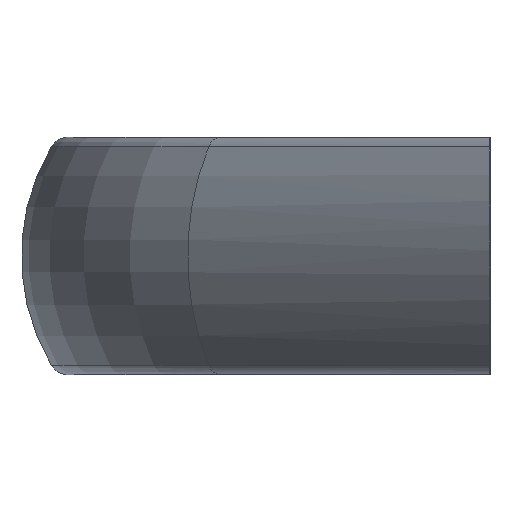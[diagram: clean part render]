
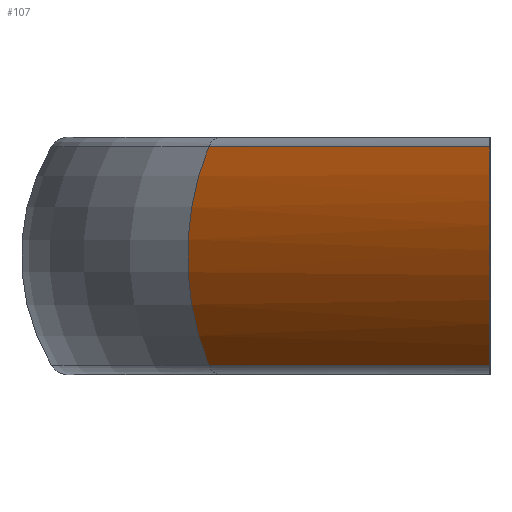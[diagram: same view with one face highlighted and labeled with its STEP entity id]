
A CAD part, left-side view. The second image highlights one B-rep face of the part: STEP entity #107.
In plain terms, the highlighted cylindrical face has radius 32.5 mm (diameter 65 mm), a partial arc.
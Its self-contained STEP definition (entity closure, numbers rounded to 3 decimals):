
#107 = ADVANCED_FACE( '', ( #181 ), #182, .T. );
#181 = FACE_OUTER_BOUND( '', #263, .T. );
#182 = CYLINDRICAL_SURFACE( '', #264, 32.5 );
#263 = EDGE_LOOP( '', ( #512, #513, #514, #515 ) );
#264 = AXIS2_PLACEMENT_3D( '', #516, #517, #518 );
#512 = ORIENTED_EDGE( '', *, *, #644, .F. );
#513 = ORIENTED_EDGE( '', *, *, #643, .T. );
#514 = ORIENTED_EDGE( '', *, *, #623, .F. );
#515 = ORIENTED_EDGE( '', *, *, #645, .F. );
#516 = CARTESIAN_POINT( '', ( -500.012, -118.591, 0. ) );
#517 = DIRECTION( '', ( -0.707, -0.707, 0. ) );
#518 = DIRECTION( '', ( -0.707, 0.707, 0. ) );
#623 = EDGE_CURVE( '', #748, #751, #752, .T. );
#643 = EDGE_CURVE( '', #777, #751, #779, .T. );
#644 = EDGE_CURVE( '', #777, #780, #781, .T. );
#645 = EDGE_CURVE( '', #780, #748, #782, .T. );
#748 = VERTEX_POINT( '', #904 );
#751 = VERTEX_POINT( '', #907 );
#752 = CIRCLE( '', #908, 32.5 );
#777 = VERTEX_POINT( '', #939 );
#779 = LINE( '', #941, #942 );
#780 = VERTEX_POINT( '', #943 );
#781 = ELLIPSE( '', #944, 45.962, 32.5 );
#782 = LINE( '', #945, #946 );
#904 = CARTESIAN_POINT( '', ( -378.379, 42.619, -16.525 ) );
#907 = CARTESIAN_POINT( '', ( -378.379, 42.619, 16.525 ) );
#908 = AXIS2_PLACEMENT_3D( '', #1088, #1089, #1090 );
#939 = CARTESIAN_POINT( '', ( -420.997, 0., 16.525 ) );
#941 = CARTESIAN_POINT( '', ( -519.8, -98.803, 16.525 ) );
#942 = VECTOR( '', #1136, 1000. );
#943 = CARTESIAN_POINT( '', ( -420.997, 0., -16.525 ) );
#944 = AXIS2_PLACEMENT_3D( '', #1137, #1138, #1139 );
#945 = CARTESIAN_POINT( '', ( -519.8, -98.803, -16.525 ) );
#946 = VECTOR( '', #1140, 1000. );
#1088 = CARTESIAN_POINT( '', ( -358.59, 22.83, 0. ) );
#1089 = DIRECTION( '', ( 0.707, 0.707, 0. ) );
#1090 = DIRECTION( '', ( 0., 0., -1. ) );
#1136 = DIRECTION( '', ( 0.707, 0.707, 0. ) );
#1137 = CARTESIAN_POINT( '', ( -381.42, 0., 0. ) );
#1138 = DIRECTION( '', ( 0., -1., 0. ) );
#1139 = DIRECTION( '', ( 1., 0., 0. ) );
#1140 = DIRECTION( '', ( 0.707, 0.707, 0. ) );
